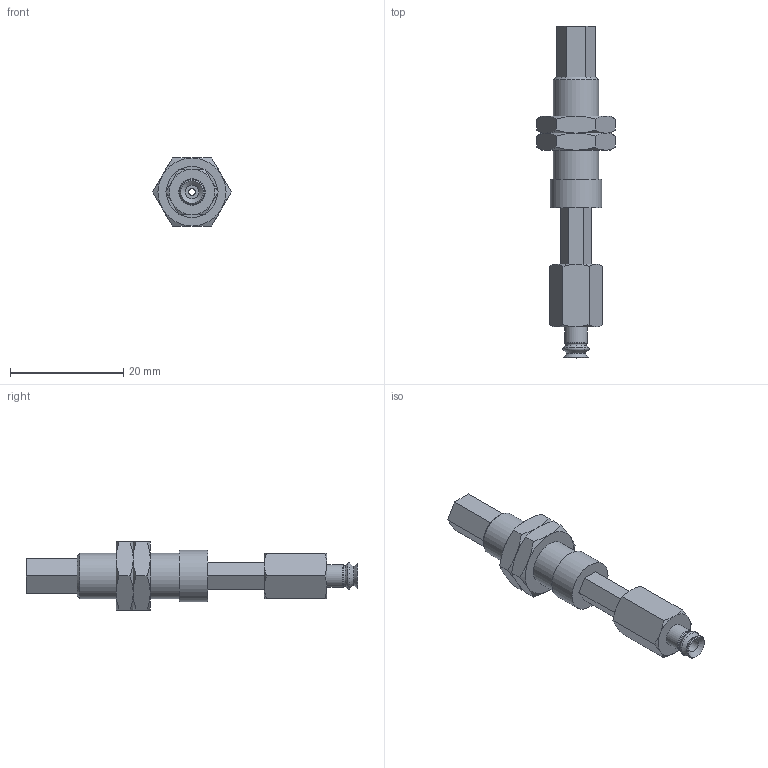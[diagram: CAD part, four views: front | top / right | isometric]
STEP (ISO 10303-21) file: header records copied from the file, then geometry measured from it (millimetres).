
FILE_DESCRIPTION(('STEP AP203'),'1');
FILE_NAME('.stp','2025-08-27T06:07:57',(' '),(' '),'Spatial InterOp 3D',' ',' ');
FILE_SCHEMA(('CONFIG_CONTROL_DESIGN'));
Length unit declared in the file: millimetre
Products named in the file (6): BNABPJTH-4-10-※; ADAPTER; NAPFTH-2A-10-MBODY; Nut-2A-10-h; NAPFTH-2A-10-FBODY; BPJG-4-※
Assembly tree (6 placements, depth 2):
  BNABPJTH-4-10-※
    ADAPTER
    NAPFTH-2A-10-MBODY
    Nut-2A-10-h  x2
    NAPFTH-2A-10-FBODY
    BPJG-4-※
Bounding box: 13.86 x 58.5 x 12 mm (x, y, z)
Volume: 2772.5 mm3; surface area: 3315.7 mm2
Topology: 6 solids, 6 shells, 124 faces, 270 edges, 163 vertices
Faces by surface type: plane 53, cone 49, cylinder 13, torus 9
Full cylindrical faces by diameter (mm): 1.2 x2, 2 x2, 2.4 x1, 2.459 x1, 3 x2, 4 x1, 7.188 x2, 8 x1, 9 x1
Entity records: 3004 total; most frequent: CARTESIAN_POINT 702, DIRECTION 414, ORIENTED_EDGE 360, EDGE_CURVE 180, AXIS2_PLACEMENT_3D 174, EDGE_LOOP 148, VERTEX_POINT 126, FACE_OUTER_BOUND 122
